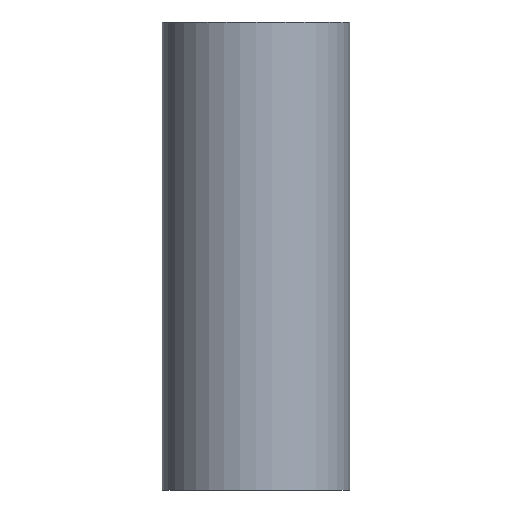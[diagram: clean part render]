
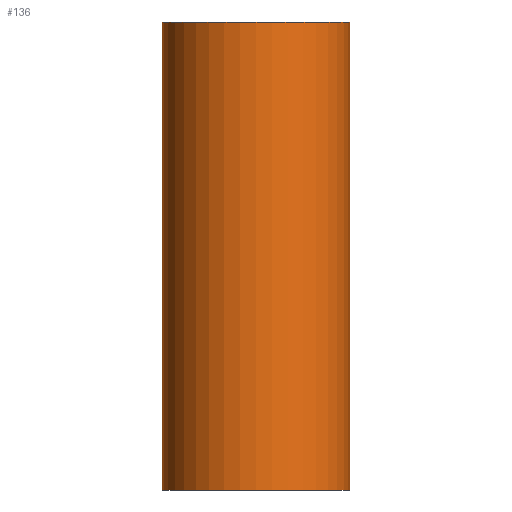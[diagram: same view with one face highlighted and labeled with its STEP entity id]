
A CAD part, front view. The second image highlights one B-rep face of the part: STEP entity #136.
In plain terms, the highlighted cylindrical face has radius 3.721 mm (diameter 7.442 mm), a full revolution.
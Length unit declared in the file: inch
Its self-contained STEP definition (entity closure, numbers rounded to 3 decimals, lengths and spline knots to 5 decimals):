
#1 = AXIS2_PLACEMENT_3D ( 'NONE', #85, #90, #91 ) ;
#3 = AXIS2_PLACEMENT_3D ( 'NONE', #84, #93, #94 ) ;
#7 = EDGE_CURVE ( 'NONE', #121, #121, #28, .T. ) ;
#13 = EDGE_CURVE ( 'NONE', #123, #123, #27, .T. ) ;
#15 = AXIS2_PLACEMENT_3D ( 'NONE', #108, #99, #96 ) ;
#27 = CIRCLE ( 'NONE', #3, 0.1465 ) ;
#28 = CIRCLE ( 'NONE', #1, 0.1465 ) ;
#32 = FACE_OUTER_BOUND ( 'NONE', #49, .T. ) ;
#33 = ORIENTED_EDGE ( 'NONE', *, *, #7, .T. ) ;
#34 = ORIENTED_EDGE ( 'NONE', *, *, #13, .F. ) ;
#44 = FACE_OUTER_BOUND ( 'NONE', #47, .T. ) ;
#47 = EDGE_LOOP ( 'NONE', ( #34 ) ) ;
#49 = EDGE_LOOP ( 'NONE', ( #33 ) ) ;
#64 = CYLINDRICAL_SURFACE ( 'NONE', #15, 0.1465 ) ;
#84 = CARTESIAN_POINT ( 'NONE',  ( 0., 0., 0.73 ) ) ;
#85 = CARTESIAN_POINT ( 'NONE',  ( 0., 0., 0. ) ) ;
#90 = DIRECTION ( 'NONE',  ( 0., 0., 1. ) ) ;
#91 = DIRECTION ( 'NONE',  ( 1., 0., 0. ) ) ;
#93 = DIRECTION ( 'NONE',  ( 0., 0., 1. ) ) ;
#94 = DIRECTION ( 'NONE',  ( 1., 0., 0. ) ) ;
#96 = DIRECTION ( 'NONE',  ( -1., 0., 0. ) ) ;
#99 = DIRECTION ( 'NONE',  ( 0., 0., -1. ) ) ;
#108 = CARTESIAN_POINT ( 'NONE',  ( 0., 0., 0.73 ) ) ;
#121 = VERTEX_POINT ( 'NONE', #122 ) ;
#122 = CARTESIAN_POINT ( 'NONE',  ( 0.1465, 0., 0. ) ) ;
#123 = VERTEX_POINT ( 'NONE', #124 ) ;
#124 = CARTESIAN_POINT ( 'NONE',  ( 0.1465, 0., 0.73 ) ) ;
#136 = ADVANCED_FACE ( 'NONE', ( #44, #32 ), #64, .T. ) ;
